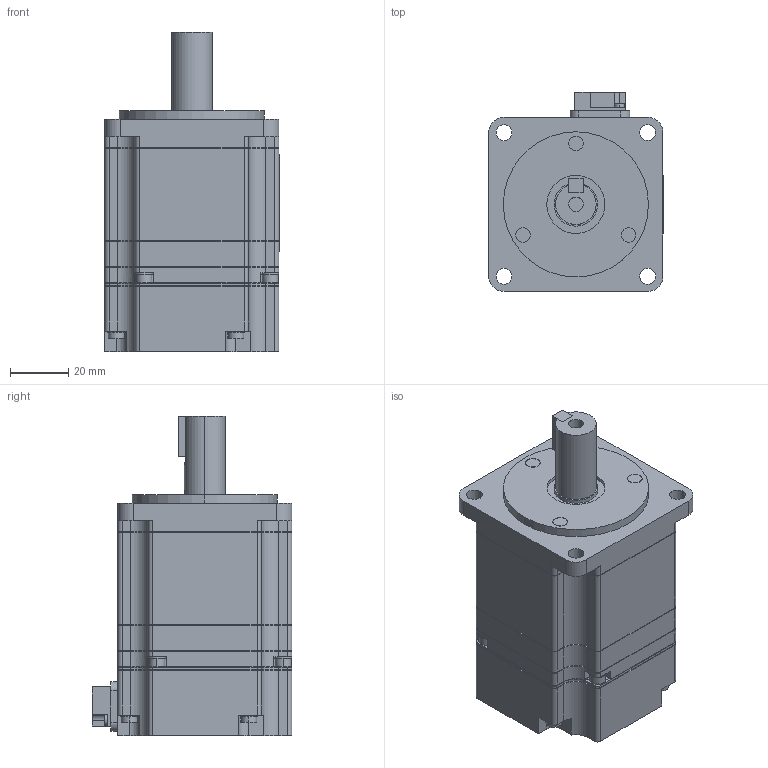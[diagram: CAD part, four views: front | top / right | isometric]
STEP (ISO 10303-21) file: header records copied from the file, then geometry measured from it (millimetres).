
FILE_DESCRIPTION (( 'STEP AP203' ), '1' );
FILE_NAME ('sgmav_02a_a61.STEP', '2008-06-10T12:00:39', ( 'T' ), ( 'T' ), 'SwSTEP 2.0', 'SolidWorks 2006052', '' );
FILE_SCHEMA (( 'CONFIG_CONTROL_DESIGN' ));
Length unit declared in the file: millimetre
Products named in the file (3): sgmav_02a_a61_key; sgmav_02a_a61; sgmav_02a_a61_base
Assembly tree (2 placements, depth 2):
  sgmav_02a_a61
    sgmav_02a_a61_key
    sgmav_02a_a61_base
Bounding box: 60.1 x 68.8 x 110.1 mm (x, y, z)
Volume: 265917.1 mm3; surface area: 31672 mm2
Topology: 2 solids, 2 shells, 496 faces, 1345 edges, 886 vertices
Faces by surface type: plane 276, cylinder 220
Entity records: 16075 total; most frequent: DIRECTION 2810, CARTESIAN_POINT 2774, ORIENTED_EDGE 2690, EDGE_CURVE 1345, AXIS2_PLACEMENT_3D 968, VERTEX_POINT 886, VECTOR 874, LINE 874
